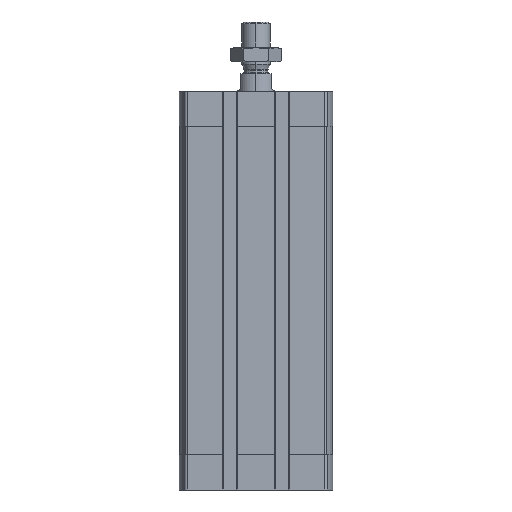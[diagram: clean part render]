
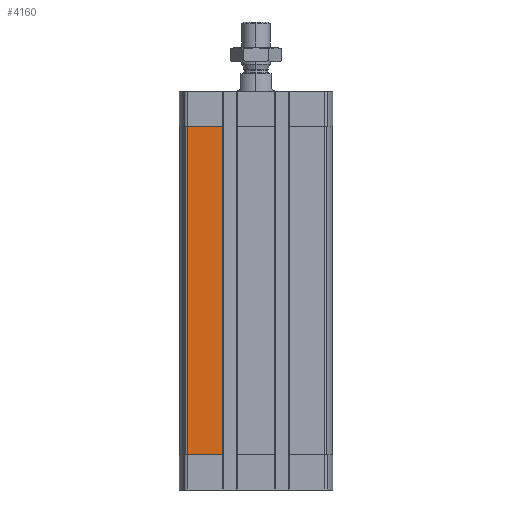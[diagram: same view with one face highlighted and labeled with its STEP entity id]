
A CAD part, left-side view. The second image highlights one B-rep face of the part: STEP entity #4160.
In plain terms, the highlighted planar face has unit normal (-1, 0, 0).
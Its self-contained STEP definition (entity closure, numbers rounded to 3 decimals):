
#896 = VECTOR ( 'NONE', #9037, 1000. ) ;
#2078 = VERTEX_POINT ( 'NONE', #9747 ) ;
#2245 = DIRECTION ( 'NONE',  ( 0., -1., 0. ) ) ;
#2386 = LINE ( 'NONE', #14670, #8797 ) ;
#2820 = PLANE ( 'NONE',  #9196 ) ;
#2997 = EDGE_CURVE ( 'NONE', #12064, #7542, #11347, .T. ) ;
#3789 = EDGE_CURVE ( 'NONE', #7542, #7532, #9371, .T. ) ;
#4160 = ADVANCED_FACE ( 'NONE', ( #13771 ), #2820, .T. ) ;
#4786 = CARTESIAN_POINT ( 'NONE',  ( -32.5, 29.291, -155. ) ) ;
#5486 = LINE ( 'NONE', #4786, #8263 ) ;
#5517 = DIRECTION ( 'NONE',  ( 0., 0., 1. ) ) ;
#6704 = DIRECTION ( 'NONE',  ( -1., 0., 0. ) ) ;
#7516 = ORIENTED_EDGE ( 'NONE', *, *, #3789, .T. ) ;
#7532 = VERTEX_POINT ( 'NONE', #15355 ) ;
#7542 = VERTEX_POINT ( 'NONE', #12909 ) ;
#8048 = ORIENTED_EDGE ( 'NONE', *, *, #12123, .T. ) ;
#8263 = VECTOR ( 'NONE', #2245, 1000. ) ;
#8797 = VECTOR ( 'NONE', #12272, 1000. ) ;
#9037 = DIRECTION ( 'NONE',  ( 0., 1., 0. ) ) ;
#9167 = CARTESIAN_POINT ( 'NONE',  ( -32.5, 0., -15. ) ) ;
#9196 = AXIS2_PLACEMENT_3D ( 'NONE', #11623, #6704, #5517 ) ;
#9371 = LINE ( 'NONE', #10034, #15480 ) ;
#9377 = EDGE_CURVE ( 'NONE', #7532, #2078, #5486, .T. ) ;
#9747 = CARTESIAN_POINT ( 'NONE',  ( -32.5, 14.2, -155. ) ) ;
#10034 = CARTESIAN_POINT ( 'NONE',  ( -32.5, 29.291, -155. ) ) ;
#10615 = DIRECTION ( 'NONE',  ( 0., 0., -1. ) ) ;
#11347 = LINE ( 'NONE', #9167, #896 ) ;
#11623 = CARTESIAN_POINT ( 'NONE',  ( -32.5, 29.291, -155. ) ) ;
#11901 = CARTESIAN_POINT ( 'NONE',  ( -32.5, 14.2, -15. ) ) ;
#12064 = VERTEX_POINT ( 'NONE', #11901 ) ;
#12123 = EDGE_CURVE ( 'NONE', #2078, #12064, #2386, .T. ) ;
#12272 = DIRECTION ( 'NONE',  ( 0., 0., 1. ) ) ;
#12909 = CARTESIAN_POINT ( 'NONE',  ( -32.5, 29.291, -15. ) ) ;
#13169 = ORIENTED_EDGE ( 'NONE', *, *, #2997, .T. ) ;
#13771 = FACE_OUTER_BOUND ( 'NONE', #15954, .T. ) ;
#14155 = ORIENTED_EDGE ( 'NONE', *, *, #9377, .T. ) ;
#14670 = CARTESIAN_POINT ( 'NONE',  ( -32.5, 14.2, -155. ) ) ;
#15355 = CARTESIAN_POINT ( 'NONE',  ( -32.5, 29.291, -155. ) ) ;
#15480 = VECTOR ( 'NONE', #10615, 1000. ) ;
#15954 = EDGE_LOOP ( 'NONE', ( #14155, #8048, #13169, #7516 ) ) ;
